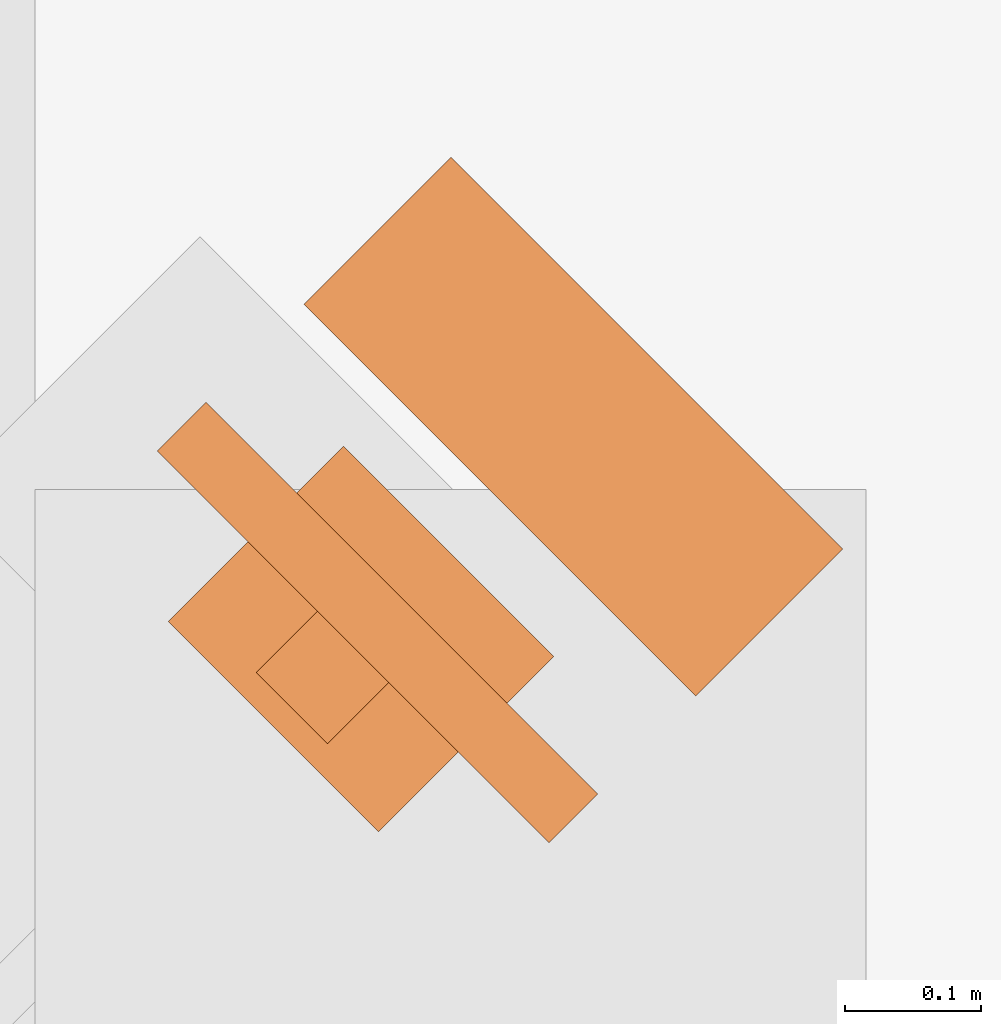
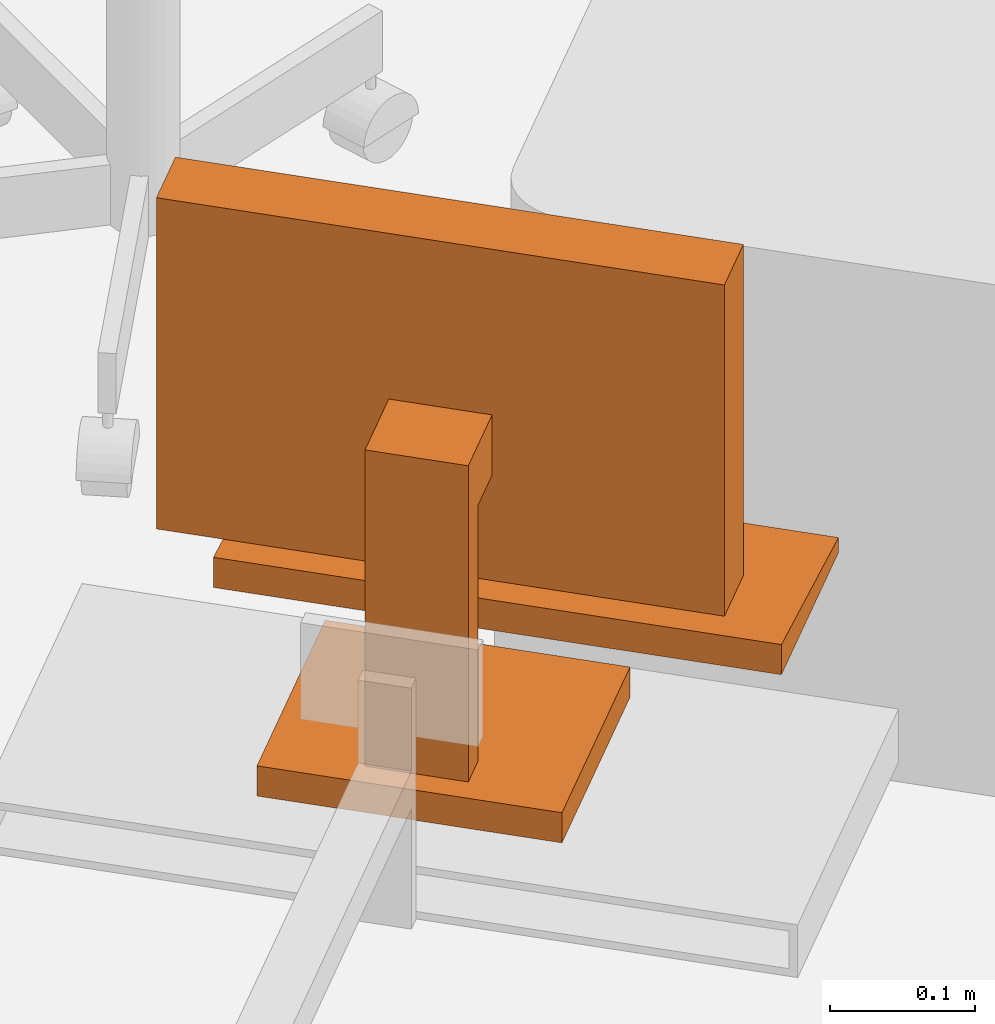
# One storey, part 8 of 10: 1 proxy.
"""IFC2X3 building model written with IfcOpenShell, lengths in feet."""

from ifc_helpers import new_model, entity, si_unit, converted_unit, derived_unit, direction, frame, origin, place, context, subcontext, project, spatial, faceted_brep, source, transform, mapped, type_object, type_shapes, element, save


model = new_model("IFC2X3")

# Units and contexts
model_context = context("Model", 3, precision=0.0001, world=origin(), true_north=direction((6.12303176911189e-17, 1.0)))
body_context = subcontext(model_context, "Body", "Model", "MODEL_VIEW")
ifc_project = project(units=[converted_unit("LENGTHUNIT", "FOOT", entity("IfcRatioMeasure", 0.3048), si_unit("LENGTHUNIT", "METRE"), dimensions=[1, 0, 0, 0, 0, 0, 0]), converted_unit("AREAUNIT", "SQUARE FOOT", entity("IfcRatioMeasure", 0.09290304), si_unit("AREAUNIT", "SQUARE_METRE"), dimensions=[2, 0, 0, 0, 0, 0, 0]), converted_unit("VOLUMEUNIT", "CUBIC FOOT", entity("IfcRatioMeasure", 0.028316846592), si_unit("VOLUMEUNIT", "CUBIC_METRE"), dimensions=[3, 0, 0, 0, 0, 0, 0]), converted_unit("PLANEANGLEUNIT", "DEGREE", entity("IfcRatioMeasure", 0.0174532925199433), si_unit("PLANEANGLEUNIT", "RADIAN"), dimensions=[0, 0, 0, 0, 0, 0, 0]), si_unit("MASSUNIT", "GRAM", prefix="KILO"), derived_unit("MASSDENSITYUNIT", [(si_unit("MASSUNIT", "GRAM", prefix="KILO"), 1), (si_unit("LENGTHUNIT", "METRE"), -3)]), si_unit("TIMEUNIT", "SECOND"), si_unit("FREQUENCYUNIT", "HERTZ"), si_unit("THERMODYNAMICTEMPERATUREUNIT", "DEGREE_CELSIUS"), derived_unit("THERMALTRANSMITTANCEUNIT", [(si_unit("MASSUNIT", "GRAM", prefix="KILO"), 1), (si_unit("THERMODYNAMICTEMPERATUREUNIT", "KELVIN"), -1), (si_unit("TIMEUNIT", "SECOND"), -3)]), derived_unit("VOLUMETRICFLOWRATEUNIT", [(si_unit("LENGTHUNIT", "METRE"), 3), (si_unit("TIMEUNIT", "SECOND"), -1)]), si_unit("ELECTRICCURRENTUNIT", "AMPERE"), si_unit("ELECTRICVOLTAGEUNIT", "VOLT"), si_unit("POWERUNIT", "WATT"), si_unit("FORCEUNIT", "NEWTON"), si_unit("ILLUMINANCEUNIT", "LUX"), si_unit("LUMINOUSFLUXUNIT", "LUMEN"), si_unit("LUMINOUSINTENSITYUNIT", "CANDELA"), derived_unit("USERDEFINED", [(si_unit("MASSUNIT", "GRAM", prefix="KILO"), -1), (si_unit("LENGTHUNIT", "METRE"), -2), (si_unit("TIMEUNIT", "SECOND"), 3), (si_unit("LUMINOUSFLUXUNIT", "LUMEN"), 1)]), derived_unit("LINEARVELOCITYUNIT", [(si_unit("LENGTHUNIT", "METRE"), 1), (si_unit("TIMEUNIT", "SECOND"), -1)]), si_unit("PRESSUREUNIT", "PASCAL"), derived_unit("USERDEFINED", [(si_unit("LENGTHUNIT", "METRE"), -2), (si_unit("MASSUNIT", "GRAM", prefix="KILO"), 1), (si_unit("TIMEUNIT", "SECOND"), -2)])], contexts=[model_context])

# Site, building, storey, space
site_placement = place(None, origin())
site = spatial("IfcSite", under=ifc_project, at=site_placement, Name="Default", CompositionType="ELEMENT")
building_placement = place(site_placement, origin())
building = spatial("IfcBuilding", under=site, at=building_placement, Name="OUTPATIENT / PACT CLINIC (Ch. 265)", CompositionType="ELEMENT")
storey_placement = place(building_placement, origin())
storey = spatial("IfcBuildingStorey", under=building, at=storey_placement, Name="DATUM", CompositionType="ELEMENT", Elevation=0.0)
space_placement = place(storey_placement, origin())
space = spatial("IfcSpace", under=storey, at=space_placement, Name="WRTM3", CompositionType="ELEMENT", InteriorOrExteriorSpace="INTERNAL")

# Proxy
building_element_proxy_type = type_object("IfcBuildingElementProxyType", Name="M1801 - Computer with Flat Panel Monitor", PredefinedType="NOTDEFINED")
shared_shape = source(origin(), body_context, "Body", "Brep", [
    faceted_brep([(0.666666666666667, -0.5625, 0.0), (0.666666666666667, -0.0624999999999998, 0.0), (0.666666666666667, -0.0624999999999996, 0.0833333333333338), (0.666666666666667, -0.5625, 0.0416666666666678), (-0.666666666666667, -0.5625, 0.0), (-0.666666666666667, -0.5625, 0.0416666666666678), (-0.666666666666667, -0.0624999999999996, 0.0833333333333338), (-0.666666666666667, -0.0624999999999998, 0.0)], [[[0, 1, 2, 3]], [[4, 5, 6, 7]], [[1, 0, 4, 7]], [[2, 1, 7, 6]], [[3, 2, 6, 5]], [[0, 3, 5, 4]]]),
    faceted_brep([(0.666666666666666, 0.437223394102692, 1.41666666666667), (-0.666666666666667, 0.437223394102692, 1.41666666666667), (-0.666666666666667, 0.271109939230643, 1.41666666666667), (0.666666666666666, 0.271109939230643, 1.41666666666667), (0.666666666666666, 0.437223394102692, 0.500000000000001), (0.666666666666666, 0.271109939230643, 0.500000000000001), (-0.666666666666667, 0.271109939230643, 0.500000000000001), (-0.666666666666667, 0.437223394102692, 0.500000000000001), (-0.625, 0.271109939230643, 1.375), (0.625, 0.271109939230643, 1.375), (0.625, 0.271109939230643, 0.541666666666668), (-0.625, 0.271109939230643, 0.541666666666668), (0.625, 0.286812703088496, 1.375), (-0.625, 0.286812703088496, 1.375), (0.625, 0.286812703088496, 0.541666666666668), (-0.625, 0.286812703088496, 0.541666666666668)], [[[0, 1, 2, 3]], [[4, 5, 6, 7]], [[1, 0, 4, 7]], [[2, 1, 7, 6]], [[3, 2, 6, 5], [8, 9, 10, 11]], [[0, 3, 5, 4]], [[12, 9, 8, 13]], [[14, 15, 11, 10]], [[12, 13, 15, 14]], [[13, 8, 11, 15]], [[9, 12, 14, 10]]]),
    faceted_brep([(0.358011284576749, 0.111770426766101, 0.0833333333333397), (0.358011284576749, 0.111770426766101, 0.0), (0.358011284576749, 0.708333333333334, 0.0), (0.358011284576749, 0.708333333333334, 0.0833333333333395), (-0.358011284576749, 0.708333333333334, 0.0833333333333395), (-0.358011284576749, 0.708333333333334, 0.0), (-0.358011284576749, 0.111770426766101, 0.0), (-0.358011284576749, 0.111770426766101, 0.0833333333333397), (0.12128795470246, 0.645556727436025, 0.104166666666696), (0.12128795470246, 0.645556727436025, 0.0833333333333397), (-0.12128795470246, 0.645556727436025, 0.0833333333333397), (-0.12128795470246, 0.645556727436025, 0.104166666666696), (0.12128795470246, 0.645556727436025, 0.958333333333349), (-0.12128795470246, 0.645556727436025, 0.958333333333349), (0.12128795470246, 0.437223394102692, 0.958333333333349), (-0.12128795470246, 0.437223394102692, 0.958333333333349), (0.12128795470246, 0.437223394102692, 0.791666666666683), (-0.12128795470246, 0.437223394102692, 0.791666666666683), (0.12128795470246, 0.562223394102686, 0.791666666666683), (-0.12128795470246, 0.562223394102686, 0.791666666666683), (0.12128795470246, 0.562223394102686, 0.0833333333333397), (-0.12128795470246, 0.562223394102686, 0.0833333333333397)], [[[0, 1, 2, 3]], [[4, 5, 6, 7]], [[8, 9, 10, 11]], [[12, 8, 11, 13]], [[14, 12, 13, 15]], [[16, 14, 15, 17]], [[18, 16, 17, 19]], [[20, 18, 19, 21]], [[0, 3, 4, 7], [9, 20, 21, 10]], [[1, 0, 7, 6]], [[2, 1, 6, 5]], [[3, 2, 5, 4]], [[20, 9, 8, 12, 14, 16, 18]], [[10, 21, 19, 17, 15, 13, 11]]]),
])
type_shapes(building_element_proxy_type, [shared_shape])
proxy_placement = place(space_placement, frame((241.84121604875, -856.924510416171, 3.14583333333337), z_axis=(0.0, 0.0, 1.0), x_axis=(-0.707106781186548, 0.707106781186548, 0.0)))
element("IfcBuildingElementProxy", 1, at=proxy_placement, inside=space, type_object=building_element_proxy_type, Name="M1801 - Computer with Flat Panel Monitor:M1801 - Computer with Flat Panel Monitor", ObjectType="M1801 - Computer with Flat Panel Monitor", context=body_context, shape_type="MappedRepresentation", body=[
    mapped(shared_shape, transform((0.0, 0.0, 0.0), scale=1.0)),
])

save(model, "model.ifc")
